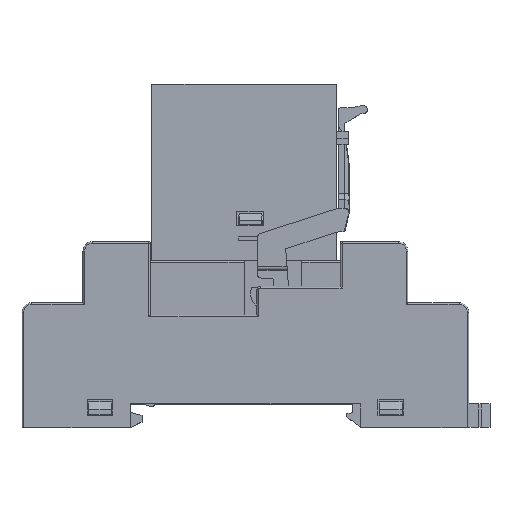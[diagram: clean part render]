
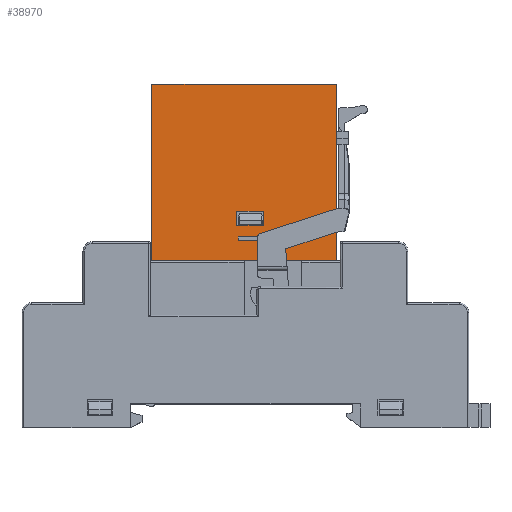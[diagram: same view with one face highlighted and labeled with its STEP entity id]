
A CAD part, top view. The second image highlights one B-rep face of the part: STEP entity #38970.
In plain terms, the highlighted planar face has unit normal (0, 0, 1).
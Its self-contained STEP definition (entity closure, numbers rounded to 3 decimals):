
#1138 = EDGE_CURVE ( 'NONE', #53443, #48024, #20703, .T. ) ;
#1342 = ORIENTED_EDGE ( 'NONE', *, *, #25368, .T. ) ;
#1650 = CARTESIAN_POINT ( 'NONE',  ( -13.965, 13.004, 6.3 ) ) ;
#2448 = EDGE_CURVE ( 'NONE', #53443, #44848, #32587, .T. ) ;
#4434 = CARTESIAN_POINT ( 'NONE',  ( -0.515, 16.704, 6.3 ) ) ;
#5003 = DIRECTION ( 'NONE',  ( 0., -1., 0. ) ) ;
#7243 = ORIENTED_EDGE ( 'NONE', *, *, #39771, .F. ) ;
#8220 = EDGE_CURVE ( 'NONE', #44848, #51204, #56267, .T. ) ;
#9457 = VERTEX_POINT ( 'NONE', #1650 ) ;
#9594 = CARTESIAN_POINT ( 'NONE',  ( 3.335, 18.604, 6.3 ) ) ;
#9950 = VERTEX_POINT ( 'NONE', #20648 ) ;
#10419 = VECTOR ( 'NONE', #24598, 1000. ) ;
#10682 = VECTOR ( 'NONE', #30269, 1000. ) ;
#10782 = EDGE_CURVE ( 'NONE', #54505, #15606, #12197, .T. ) ;
#11088 = ORIENTED_EDGE ( 'NONE', *, *, #10782, .F. ) ;
#12197 = LINE ( 'NONE', #58518, #25407 ) ;
#12887 = LINE ( 'NONE', #27719, #64736 ) ;
#13064 = EDGE_CURVE ( 'NONE', #33469, #45374, #61763, .T. ) ;
#14377 = CARTESIAN_POINT ( 'NONE',  ( 3.335, 16.204, 6.3 ) ) ;
#15599 = VECTOR ( 'NONE', #71899, 1000. ) ;
#15606 = VERTEX_POINT ( 'NONE', #59290 ) ;
#15650 = FACE_OUTER_BOUND ( 'NONE', #18092, .T. ) ;
#16017 = ORIENTED_EDGE ( 'NONE', *, *, #8220, .T. ) ;
#16102 = DIRECTION ( 'NONE',  ( 0., -1., 0. ) ) ;
#17134 = DIRECTION ( 'NONE',  ( -1., 0., 0. ) ) ;
#18092 = EDGE_LOOP ( 'NONE', ( #7243, #1342, #38991, #52648 ) ) ;
#18180 = CARTESIAN_POINT ( 'NONE',  ( 3.435, 20.704, 6.3 ) ) ;
#19604 = DIRECTION ( 'NONE',  ( 0., -1., 0. ) ) ;
#20134 = LINE ( 'NONE', #29487, #71984 ) ;
#20648 = CARTESIAN_POINT ( 'NONE',  ( 14.835, 40.504, 6.3 ) ) ;
#20703 = LINE ( 'NONE', #57011, #68473 ) ;
#21649 = CARTESIAN_POINT ( 'NONE',  ( -0.515, 16.204, 6.3 ) ) ;
#23199 = CARTESIAN_POINT ( 'NONE',  ( -13.965, 40.504, 6.3 ) ) ;
#23779 = EDGE_CURVE ( 'NONE', #9457, #61937, #12887, .T. ) ;
#23876 = CARTESIAN_POINT ( 'NONE',  ( -13.965, 16.704, 6.3 ) ) ;
#24598 = DIRECTION ( 'NONE',  ( 0., 1., 0. ) ) ;
#25368 = EDGE_CURVE ( 'NONE', #70676, #9457, #32845, .T. ) ;
#25407 = VECTOR ( 'NONE', #19604, 1000. ) ;
#26139 = DIRECTION ( 'NONE',  ( 0., 1., 0. ) ) ;
#26260 = EDGE_CURVE ( 'NONE', #61937, #9950, #47006, .T. ) ;
#27166 = VECTOR ( 'NONE', #26139, 1000. ) ;
#27719 = CARTESIAN_POINT ( 'NONE',  ( -13.965, 13.004, 6.3 ) ) ;
#29487 = CARTESIAN_POINT ( 'NONE',  ( -0.765, 18.504, 6.3 ) ) ;
#30269 = DIRECTION ( 'NONE',  ( -1., 0., 0. ) ) ;
#30830 = FACE_BOUND ( 'NONE', #52115, .T. ) ;
#32587 = LINE ( 'NONE', #23876, #65224 ) ;
#32613 = CARTESIAN_POINT ( 'NONE',  ( -13.965, 13.004, 6.3 ) ) ;
#32845 = LINE ( 'NONE', #32613, #15599 ) ;
#33469 = VERTEX_POINT ( 'NONE', #67819 ) ;
#34206 = DIRECTION ( 'NONE',  ( 1., 0., 0. ) ) ;
#38881 = CARTESIAN_POINT ( 'NONE',  ( 3.435, 18.504, 6.3 ) ) ;
#38915 = DIRECTION ( 'NONE',  ( 0., -1., 0. ) ) ;
#38970 = ADVANCED_FACE ( 'NONE', ( #15650, #30830, #48172 ), #58300, .F. ) ;
#38991 = ORIENTED_EDGE ( 'NONE', *, *, #23779, .T. ) ;
#39245 = CARTESIAN_POINT ( 'NONE',  ( 14.835, 13.004, 6.3 ) ) ;
#39771 = EDGE_CURVE ( 'NONE', #70676, #9950, #49070, .T. ) ;
#42012 = DIRECTION ( 'NONE',  ( 1., 0., 0. ) ) ;
#42944 = CARTESIAN_POINT ( 'NONE',  ( 3.335, 16.204, 6.3 ) ) ;
#44848 = VERTEX_POINT ( 'NONE', #63196 ) ;
#45374 = VERTEX_POINT ( 'NONE', #18180 ) ;
#47006 = LINE ( 'NONE', #50390, #10419 ) ;
#48024 = VERTEX_POINT ( 'NONE', #21649 ) ;
#48172 = FACE_BOUND ( 'NONE', #65477, .T. ) ;
#49070 = LINE ( 'NONE', #23199, #64395 ) ;
#49282 = DIRECTION ( 'NONE',  ( 1., 0., 0. ) ) ;
#50390 = CARTESIAN_POINT ( 'NONE',  ( 14.835, 13.004, 6.3 ) ) ;
#51204 = VERTEX_POINT ( 'NONE', #14377 ) ;
#51678 = CARTESIAN_POINT ( 'NONE',  ( -13.965, 40.504, 6.3 ) ) ;
#52115 = EDGE_LOOP ( 'NONE', ( #79145, #60728, #16017, #72247 ) ) ;
#52648 = ORIENTED_EDGE ( 'NONE', *, *, #26260, .T. ) ;
#53443 = VERTEX_POINT ( 'NONE', #4434 ) ;
#54505 = VERTEX_POINT ( 'NONE', #80798 ) ;
#55212 = EDGE_CURVE ( 'NONE', #45374, #54505, #62531, .T. ) ;
#56267 = LINE ( 'NONE', #9594, #71554 ) ;
#57011 = CARTESIAN_POINT ( 'NONE',  ( -0.515, 18.604, 6.3 ) ) ;
#58300 = PLANE ( 'NONE',  #59722 ) ;
#58518 = CARTESIAN_POINT ( 'NONE',  ( -0.765, 18.504, 6.3 ) ) ;
#59290 = CARTESIAN_POINT ( 'NONE',  ( -0.765, 18.504, 6.3 ) ) ;
#59722 = AXIS2_PLACEMENT_3D ( 'NONE', #64851, #77916, #38915 ) ;
#60728 = ORIENTED_EDGE ( 'NONE', *, *, #2448, .T. ) ;
#61763 = LINE ( 'NONE', #38881, #27166 ) ;
#61937 = VERTEX_POINT ( 'NONE', #39245 ) ;
#62065 = LINE ( 'NONE', #42944, #64126 ) ;
#62531 = LINE ( 'NONE', #75532, #10682 ) ;
#62783 = DIRECTION ( 'NONE',  ( 1., 0., 0. ) ) ;
#63196 = CARTESIAN_POINT ( 'NONE',  ( 3.335, 16.704, 6.3 ) ) ;
#64126 = VECTOR ( 'NONE', #17134, 1000. ) ;
#64395 = VECTOR ( 'NONE', #49282, 1000. ) ;
#64736 = VECTOR ( 'NONE', #34206, 1000. ) ;
#64851 = CARTESIAN_POINT ( 'NONE',  ( -13.965, 26.504, 6.3 ) ) ;
#65224 = VECTOR ( 'NONE', #62783, 1000. ) ;
#65477 = EDGE_LOOP ( 'NONE', ( #72654, #77215, #80772, #11088 ) ) ;
#67819 = CARTESIAN_POINT ( 'NONE',  ( 3.435, 18.504, 6.3 ) ) ;
#68473 = VECTOR ( 'NONE', #5003, 1000. ) ;
#70676 = VERTEX_POINT ( 'NONE', #51678 ) ;
#71554 = VECTOR ( 'NONE', #16102, 1000. ) ;
#71899 = DIRECTION ( 'NONE',  ( 0., -1., 0. ) ) ;
#71984 = VECTOR ( 'NONE', #42012, 1000. ) ;
#72247 = ORIENTED_EDGE ( 'NONE', *, *, #82576, .T. ) ;
#72654 = ORIENTED_EDGE ( 'NONE', *, *, #55212, .F. ) ;
#75532 = CARTESIAN_POINT ( 'NONE',  ( -0.765, 20.704, 6.3 ) ) ;
#77003 = EDGE_CURVE ( 'NONE', #15606, #33469, #20134, .T. ) ;
#77215 = ORIENTED_EDGE ( 'NONE', *, *, #13064, .F. ) ;
#77916 = DIRECTION ( 'NONE',  ( 0., 0., -1. ) ) ;
#79145 = ORIENTED_EDGE ( 'NONE', *, *, #1138, .F. ) ;
#80772 = ORIENTED_EDGE ( 'NONE', *, *, #77003, .F. ) ;
#80798 = CARTESIAN_POINT ( 'NONE',  ( -0.765, 20.704, 6.3 ) ) ;
#82576 = EDGE_CURVE ( 'NONE', #51204, #48024, #62065, .T. ) ;
